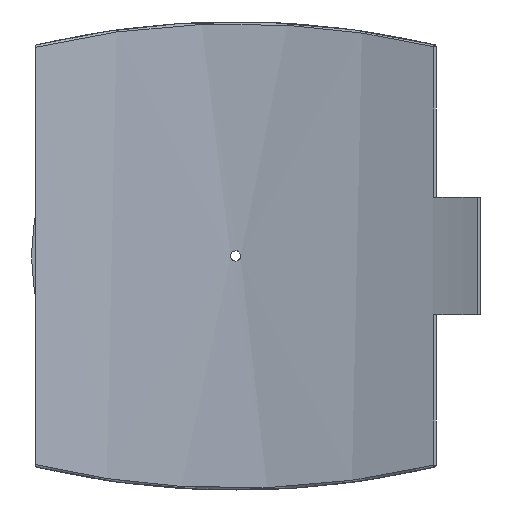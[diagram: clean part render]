
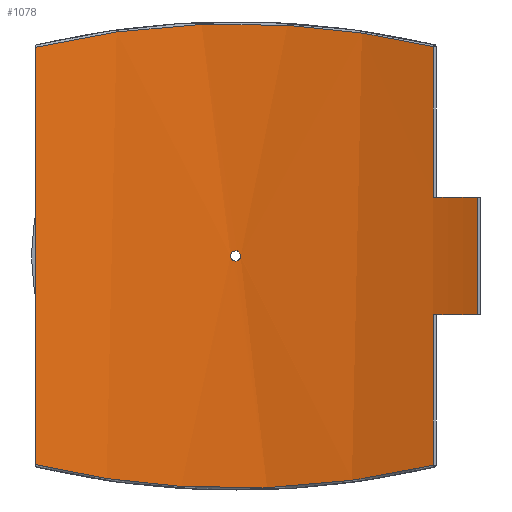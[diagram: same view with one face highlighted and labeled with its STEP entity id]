
A CAD part, front view. The second image highlights one B-rep face of the part: STEP entity #1078.
In plain terms, the highlighted cylindrical face has radius 600 mm (diameter 1200 mm), a partial arc.
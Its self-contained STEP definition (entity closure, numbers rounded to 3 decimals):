
#55=FACE_BOUND('',#355,.T.);
#109=B_SPLINE_CURVE_WITH_KNOTS('',3,(#2166,#2167,#2168,#2169,#2170,#2171,
#2172,#2173,#2174),.UNSPECIFIED.,.F.,.F.,(4,1,1,1,1,1,4),(-46.413,
-40.524,-34.635,-22.856,-16.966,
-11.077,-5.187),.UNSPECIFIED.);
#110=B_SPLINE_CURVE_WITH_KNOTS('',3,(#2183,#2184,#2185,#2186,#2187,#2188,
#2189,#2190),.UNSPECIFIED.,.F.,.F.,(4,1,1,1,1,4),(-42.084,-36.195,
-30.306,-18.527,-6.748,-0.858),
 .UNSPECIFIED.);
#111=B_SPLINE_CURVE_WITH_KNOTS('',3,(#2193,#2194,#2195,#2196,#2197,#2198,
#2199,#2200,#2201,#2202),.UNSPECIFIED.,.F.,.F.,(4,2,2,2,4),(0.,0.196,
0.392,0.588,0.784),.UNSPECIFIED.);
#112=B_SPLINE_CURVE_WITH_KNOTS('',3,(#2203,#2204,#2205,#2206,#2207,#2208,
#2209,#2210,#2211,#2212,#2213,#2214,#2215,#2216,#2217,#2218,#2219,#2220,
#2221,#2222,#2223,#2224,#2225,#2226,#2227,#2228),.UNSPECIFIED.,.F.,.F.,
(4,2,2,2,2,2,2,2,2,2,2,2,4),(0.784,0.979,1.175,
1.371,1.567,1.763,1.959,2.155,
2.351,2.546,2.742,2.938,3.134),
 .UNSPECIFIED.);
#133=LINE('',#1615,#184);
#144=LINE('',#1886,#195);
#151=LINE('',#2179,#202);
#152=LINE('',#2182,#203);
#184=VECTOR('',#1292,10.);
#195=VECTOR('',#1331,10.);
#202=VECTOR('',#1368,10.);
#203=VECTOR('',#1371,10.);
#244=CYLINDRICAL_SURFACE('',#1175,600.);
#288=FACE_OUTER_BOUND('',#354,.T.);
#354=EDGE_LOOP('',(#839,#840,#841,#842,#843,#844,#845,#846));
#355=EDGE_LOOP('',(#847,#848));
#449=CIRCLE('',#1176,600.);
#450=CIRCLE('',#1177,600.);
#510=VERTEX_POINT('',#1606);
#513=VERTEX_POINT('',#1613);
#533=VERTEX_POINT('',#1879);
#536=VERTEX_POINT('',#1884);
#549=VERTEX_POINT('',#2155);
#550=VERTEX_POINT('',#2176);
#551=VERTEX_POINT('',#2178);
#552=VERTEX_POINT('',#2181);
#553=VERTEX_POINT('',#2191);
#554=VERTEX_POINT('',#2192);
#613=EDGE_CURVE('',#513,#510,#133,.T.);
#643=EDGE_CURVE('',#536,#533,#144,.T.);
#666=EDGE_CURVE('',#549,#536,#109,.T.);
#667=EDGE_CURVE('',#550,#513,#449,.T.);
#668=EDGE_CURVE('',#550,#551,#151,.T.);
#669=EDGE_CURVE('',#533,#551,#450,.T.);
#670=EDGE_CURVE('',#552,#549,#152,.T.);
#671=EDGE_CURVE('',#510,#552,#110,.T.);
#672=EDGE_CURVE('',#553,#554,#111,.T.);
#673=EDGE_CURVE('',#554,#553,#112,.T.);
#839=ORIENTED_EDGE('',*,*,#667,.F.);
#840=ORIENTED_EDGE('',*,*,#668,.T.);
#841=ORIENTED_EDGE('',*,*,#669,.F.);
#842=ORIENTED_EDGE('',*,*,#643,.F.);
#843=ORIENTED_EDGE('',*,*,#666,.F.);
#844=ORIENTED_EDGE('',*,*,#670,.F.);
#845=ORIENTED_EDGE('',*,*,#671,.F.);
#846=ORIENTED_EDGE('',*,*,#613,.F.);
#847=ORIENTED_EDGE('',*,*,#672,.T.);
#848=ORIENTED_EDGE('',*,*,#673,.T.);
#1078=ADVANCED_FACE('',(#288,#55),#244,.F.);
#1175=AXIS2_PLACEMENT_3D('',#2175,#1364,#1365);
#1176=AXIS2_PLACEMENT_3D('',#2177,#1366,#1367);
#1177=AXIS2_PLACEMENT_3D('',#2180,#1369,#1370);
#1292=DIRECTION('',(0.,0.,-1.));
#1331=DIRECTION('',(0.,0.,-1.));
#1364=DIRECTION('center_axis',(0.,0.,1.));
#1365=DIRECTION('ref_axis',(-1.,0.,0.));
#1366=DIRECTION('center_axis',(0.,0.,1.));
#1367=DIRECTION('ref_axis',(-0.405,-0.915,0.));
#1368=DIRECTION('',(0.,0.,1.));
#1369=DIRECTION('center_axis',(0.,0.,-1.));
#1370=DIRECTION('ref_axis',(-0.405,-0.915,0.));
#1371=DIRECTION('',(0.,0.,1.));
#1606=CARTESIAN_POINT('',(198.488,566.218,-209.917));
#1613=CARTESIAN_POINT('',(198.488,566.218,-58.75));
#1615=CARTESIAN_POINT('',(198.488,566.218,0.));
#1879=CARTESIAN_POINT('',(198.488,566.218,58.75));
#1884=CARTESIAN_POINT('',(198.488,566.218,209.917));
#1886=CARTESIAN_POINT('',(198.488,566.218,0.));
#2155=CARTESIAN_POINT('',(-201.15,565.278,209.285));
#2166=CARTESIAN_POINT('Ctrl Pts',(-201.15,565.278,209.285));
#2167=CARTESIAN_POINT('Ctrl Pts',(-183.164,571.678,213.585));
#2168=CARTESIAN_POINT('Ctrl Pts',(-146.368,582.83,221.156));
#2169=CARTESIAN_POINT('Ctrl Pts',(-70.179,598.121,231.683));
#2170=CARTESIAN_POINT('Ctrl Pts',(8.482,602.188,234.522));
#2171=CARTESIAN_POINT('Ctrl Pts',(86.37,594.706,229.328));
#2172=CARTESIAN_POINT('Ctrl Pts',(143.593,583.529,221.638));
#2173=CARTESIAN_POINT('Ctrl Pts',(180.46,572.538,214.167));
#2174=CARTESIAN_POINT('Ctrl Pts',(198.488,566.218,209.917));
#2175=CARTESIAN_POINT('Origin',(0.,0.,0.));
#2176=CARTESIAN_POINT('',(242.701,548.722,-58.75));
#2177=CARTESIAN_POINT('Origin',(0.,0.,
-58.75));
#2178=CARTESIAN_POINT('',(242.701,548.722,58.75));
#2179=CARTESIAN_POINT('',(242.701,548.722,0.));
#2180=CARTESIAN_POINT('Origin',(0.,0.,
58.75));
#2181=CARTESIAN_POINT('',(-201.15,565.278,-209.285));
#2182=CARTESIAN_POINT('',(-201.15,565.278,0.));
#2183=CARTESIAN_POINT('Ctrl Pts',(198.488,566.218,-209.917));
#2184=CARTESIAN_POINT('Ctrl Pts',(180.46,572.538,-214.167));
#2185=CARTESIAN_POINT('Ctrl Pts',(143.591,583.522,-221.63));
#2186=CARTESIAN_POINT('Ctrl Pts',(67.3,598.452,-231.912));
#2187=CARTESIAN_POINT('Ctrl Pts',(-31.07,603.065,-235.137));
#2188=CARTESIAN_POINT('Ctrl Pts',(-127.983,588.424,-224.96));
#2189=CARTESIAN_POINT('Ctrl Pts',(-183.164,571.678,-213.585));
#2190=CARTESIAN_POINT('Ctrl Pts',(-201.15,565.278,-209.285));
#2191=CARTESIAN_POINT('',(5.2,599.977,0.));
#2192=CARTESIAN_POINT('',(0.,600.,-5.2));
#2193=CARTESIAN_POINT('Ctrl Pts',(5.2,599.977,0.));
#2194=CARTESIAN_POINT('Ctrl Pts',(5.2,599.977,-0.653));
#2195=CARTESIAN_POINT('Ctrl Pts',(5.07,599.979,-1.349));
#2196=CARTESIAN_POINT('Ctrl Pts',(4.539,599.983,-2.631));
#2197=CARTESIAN_POINT('Ctrl Pts',(4.139,599.986,-3.215));
#2198=CARTESIAN_POINT('Ctrl Pts',(3.215,599.992,-4.139));
#2199=CARTESIAN_POINT('Ctrl Pts',(2.631,599.995,-4.539));
#2200=CARTESIAN_POINT('Ctrl Pts',(1.349,599.999,-5.07));
#2201=CARTESIAN_POINT('Ctrl Pts',(0.653,600.,-5.2));
#2202=CARTESIAN_POINT('Ctrl Pts',(0.,600.,-5.2));
#2203=CARTESIAN_POINT('Ctrl Pts',(0.,600.,-5.2));
#2204=CARTESIAN_POINT('Ctrl Pts',(-0.653,600.,-5.2));
#2205=CARTESIAN_POINT('Ctrl Pts',(-1.349,599.999,-5.07));
#2206=CARTESIAN_POINT('Ctrl Pts',(-2.631,599.995,-4.539));
#2207=CARTESIAN_POINT('Ctrl Pts',(-3.215,599.992,-4.139));
#2208=CARTESIAN_POINT('Ctrl Pts',(-4.139,599.986,-3.215));
#2209=CARTESIAN_POINT('Ctrl Pts',(-4.539,599.983,-2.631));
#2210=CARTESIAN_POINT('Ctrl Pts',(-5.07,599.979,-1.349));
#2211=CARTESIAN_POINT('Ctrl Pts',(-5.2,599.977,-0.653));
#2212=CARTESIAN_POINT('Ctrl Pts',(-5.2,599.977,0.653));
#2213=CARTESIAN_POINT('Ctrl Pts',(-5.07,599.979,1.349));
#2214=CARTESIAN_POINT('Ctrl Pts',(-4.539,599.983,2.631));
#2215=CARTESIAN_POINT('Ctrl Pts',(-4.139,599.986,3.215));
#2216=CARTESIAN_POINT('Ctrl Pts',(-3.215,599.992,4.139));
#2217=CARTESIAN_POINT('Ctrl Pts',(-2.631,599.995,4.539));
#2218=CARTESIAN_POINT('Ctrl Pts',(-1.349,599.999,5.07));
#2219=CARTESIAN_POINT('Ctrl Pts',(-0.653,600.,5.2));
#2220=CARTESIAN_POINT('Ctrl Pts',(0.653,600.,5.2));
#2221=CARTESIAN_POINT('Ctrl Pts',(1.349,599.999,5.07));
#2222=CARTESIAN_POINT('Ctrl Pts',(2.631,599.995,4.539));
#2223=CARTESIAN_POINT('Ctrl Pts',(3.215,599.992,4.139));
#2224=CARTESIAN_POINT('Ctrl Pts',(4.139,599.986,3.215));
#2225=CARTESIAN_POINT('Ctrl Pts',(4.539,599.983,2.631));
#2226=CARTESIAN_POINT('Ctrl Pts',(5.07,599.979,1.349));
#2227=CARTESIAN_POINT('Ctrl Pts',(5.2,599.977,0.653));
#2228=CARTESIAN_POINT('Ctrl Pts',(5.2,599.977,0.));
